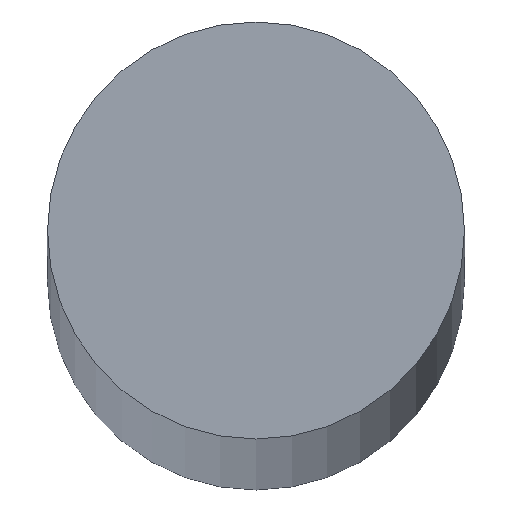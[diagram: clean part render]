
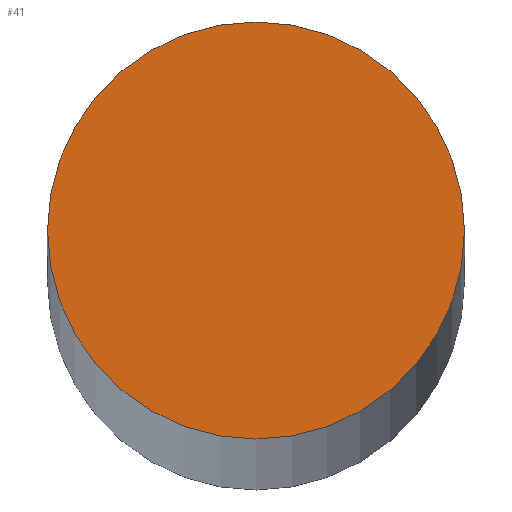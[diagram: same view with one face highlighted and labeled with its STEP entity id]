
A CAD part, top view. The second image highlights one B-rep face of the part: STEP entity #41.
In plain terms, the highlighted planar face has unit normal (0, 0, 1).
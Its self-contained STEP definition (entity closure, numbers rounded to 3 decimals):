
#16=PLANE('',#66);
#19=FACE_OUTER_BOUND('',#22,.T.);
#22=EDGE_LOOP('',(#37));
#25=CIRCLE('',#63,10.);
#27=VERTEX_POINT('',#82);
#29=EDGE_CURVE('',#27,#27,#25,.T.);
#37=ORIENTED_EDGE('',*,*,#29,.T.);
#41=ADVANCED_FACE('',(#19),#16,.T.);
#63=AXIS2_PLACEMENT_3D('',#83,#71,#72);
#66=AXIS2_PLACEMENT_3D('',#88,#78,#79);
#71=DIRECTION('center_axis',(0.,0.,1.));
#72=DIRECTION('ref_axis',(-1.,0.,0.));
#78=DIRECTION('center_axis',(0.,0.,1.));
#79=DIRECTION('ref_axis',(1.,0.,0.));
#82=CARTESIAN_POINT('',(10.,0.,1400.));
#83=CARTESIAN_POINT('Origin',(0.,0.,1400.));
#88=CARTESIAN_POINT('Origin',(0.,0.,1400.));
